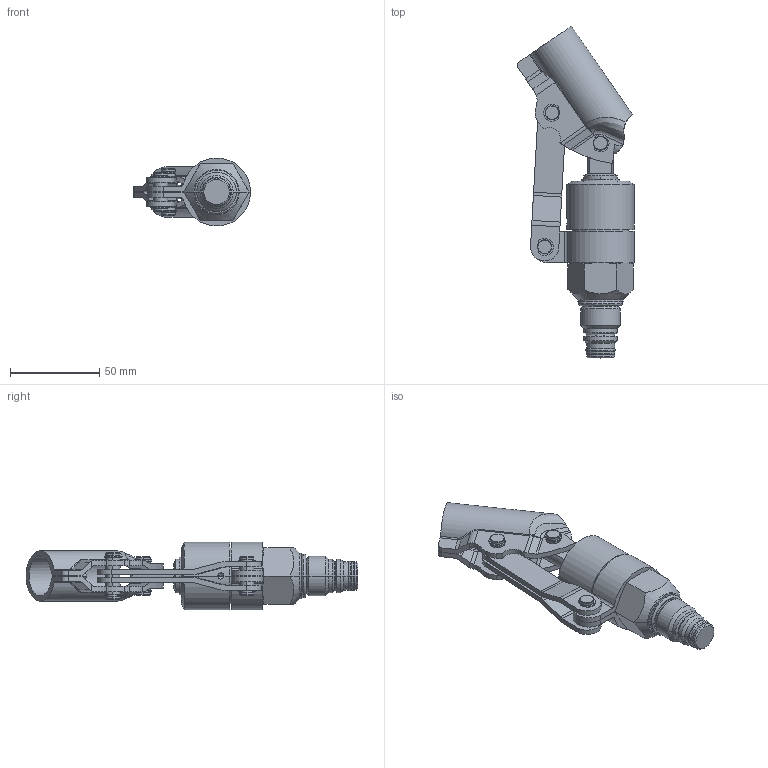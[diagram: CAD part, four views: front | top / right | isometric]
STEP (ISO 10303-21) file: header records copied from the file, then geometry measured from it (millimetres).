
FILE_DESCRIPTION((''),'2;1');
FILE_NAME('547020X_SW0002','2009-02-09T',('jcs'),(''),'PRO/ENGINEER BY PARAMETRIC TECHNOLOGY CORPORATION, 2008010','PRO/ENGINEER BY PARAMETRIC TECHNOLOGY CORPORATION, 2008010','');
FILE_SCHEMA(('CONFIG_CONTROL_DESIGN'));
Length unit declared in the file: inch
Products named in the file (1): 547020X_SW0002
Bounding box: 65.66 x 186.37 x 38.08 mm (x, y, z)
Volume: 113326.2 mm3; surface area: 43269.8 mm2
Topology: 10 solids, 10 shells, 443 faces, 1124 edges, 688 vertices
Faces by surface type: cylinder 193, plane 128, cone 50, bspline 44, revolution 16, torus 10, sphere 2
Entity records: 21035 total; most frequent: CARTESIAN_POINT 10444, ORIENTED_EDGE 2228, DIRECTION 2224, EDGE_CURVE 1114, AXIS2_PLACEMENT_3D 889, VERTEX_POINT 688, CIRCLE 506, EDGE_LOOP 480
